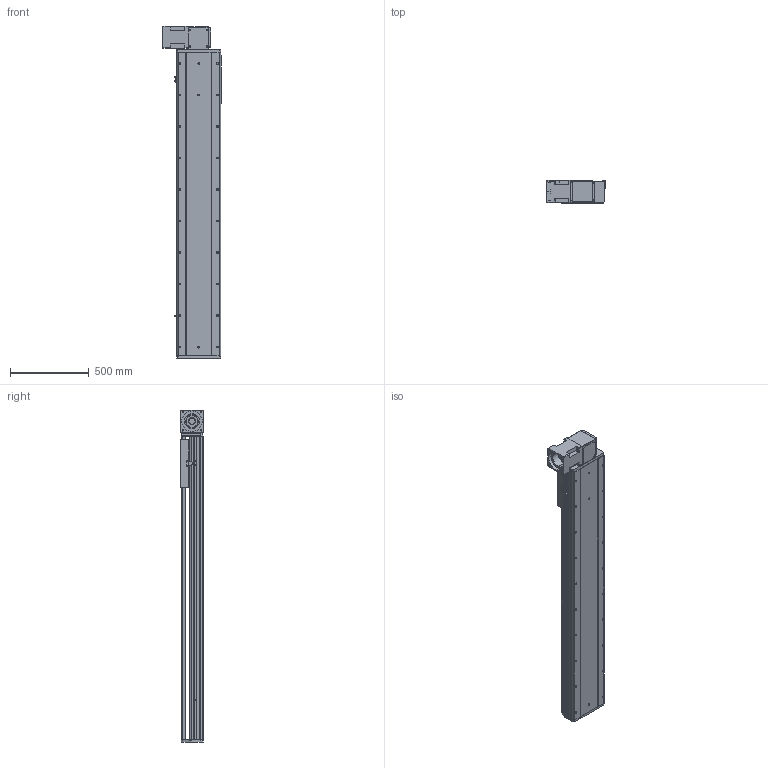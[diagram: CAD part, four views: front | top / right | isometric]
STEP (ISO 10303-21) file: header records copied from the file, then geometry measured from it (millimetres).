
FILE_DESCRIPTION (( 'STEP AP214' ), '1' );
FILE_NAME ('RTB28R-XX-1500-BR-M100-XX-C4.STEP', '2025-12-22T01:13:44', ( '' ), ( '' ), 'SwSTEP 2.0', 'SolidWorks 2018', '' );
FILE_SCHEMA (( 'AUTOMOTIVE_DESIGN' ));
Length unit declared in the file: millimetre
Products named in the file (4): RTB28S-GY-011^RTB28R-XX-XX-BR-M100-XX-C4; RTB28S-GY-004^RTB28R-XX-XX-BR-M100-XX-C4; RTB28R-XX-1500-BR-M100-XX-C4; RTB28S-GY-008^RTB28R-XX-XX-BR-M100-XX-C4
Assembly tree (3 placements, depth 2):
  RTB28R-XX-1500-BR-M100-XX-C4
    RTB28S-GY-011^RTB28R-XX-XX-BR-M100-XX-C4
    RTB28S-GY-004^RTB28R-XX-XX-BR-M100-XX-C4
    RTB28S-GY-008^RTB28R-XX-XX-BR-M100-XX-C4
Bounding box: 370 x 145 x 2107 mm (x, y, z)
Volume: 37493943.2 mm3; surface area: 3570666.9 mm2
Topology: 3 solids, 4 shells, 1008 faces, 2670 edges, 1716 vertices
Faces by surface type: plane 460, cylinder 377, bspline 87, cone 80, torus 4
Entity records: 43174 total; most frequent: CARTESIAN_POINT 11545, ORIENTED_EDGE 5276, DIRECTION 5130, EDGE_CURVE 2638, AXIS2_PLACEMENT_3D 1769, VERTEX_POINT 1716, VECTOR 1592, LINE 1592
